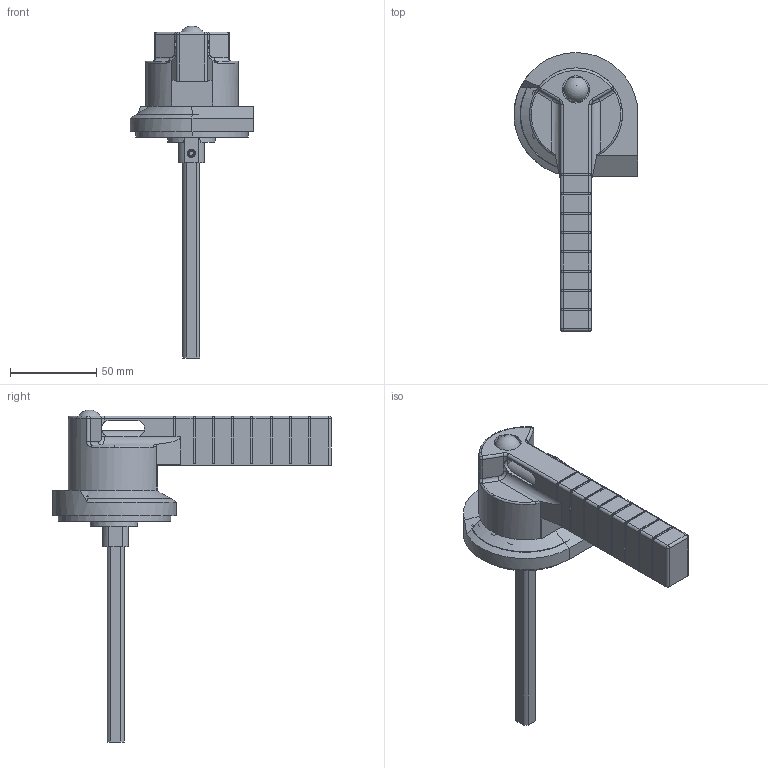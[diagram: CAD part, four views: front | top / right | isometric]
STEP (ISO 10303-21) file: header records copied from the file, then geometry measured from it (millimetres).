
FILE_DESCRIPTION (( 'STEP AP214' ), '1' );
FILE_NAME ('Extended rotary handle-GL-125-630.STEP', '2026-01-14T08:35:44', ( '' ), ( '' ), 'SwSTEP 2.0', 'SolidWorks 2024', '' );
FILE_SCHEMA (( 'AUTOMOTIVE_DESIGN' ));
Length unit declared in the file: millimetre
Products named in the file (6): GL-6300002_1_1_1.stp; PRT0001_1_1_1.stp; GL-125_6300001_ASM_1_ASM_1.stp; Extended rotary handle-GL-125-630.stp; Extended rotary handle-GL-125-630; GL-63000_ASM_1_ASM_1_ASM_1.stp
Assembly tree (5 placements, depth 5):
  Extended rotary handle-GL-125-630
    Extended rotary handle-GL-125-630.stp
      GL-125_6300001_ASM_1_ASM_1.stp
        GL-63000_ASM_1_ASM_1_ASM_1.stp
          PRT0001_1_1_1.stp
          GL-6300002_1_1_1.stp
Bounding box: 72 x 162 x 192.79 mm (x, y, z)
Volume: 165908.1 mm3; surface area: 75471.8 mm2
Topology: 2 solids, 23 shells, 1087 faces, 2975 edges, 1929 vertices
Faces by surface type: plane 639, cylinder 345, bspline 55, cone 28, torus 12, sphere 8
Entity records: 38032 total; most frequent: CARTESIAN_POINT 10380, ORIENTED_EDGE 5910, DIRECTION 5605, EDGE_CURVE 2955, VERTEX_POINT 1924, AXIS2_PLACEMENT_3D 1918, VECTOR 1769, LINE 1769
